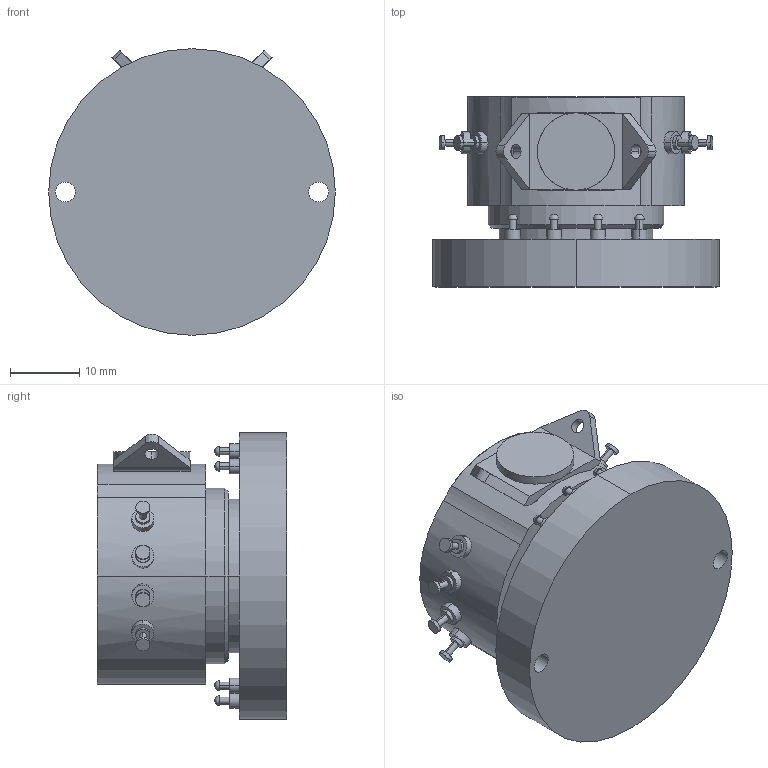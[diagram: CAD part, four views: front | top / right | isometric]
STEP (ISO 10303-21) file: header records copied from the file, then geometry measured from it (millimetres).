
FILE_DESCRIPTION (( 'STEP AP203' ), '1' );
FILE_NAME ('1007832.STEP', '2017-06-05T15:06:09', ( '' ), ( '' ), 'SwSTEP 2.0', 'SolidWorks 2014', '' );
FILE_SCHEMA (( 'CONFIG_CONTROL_DESIGN' ));
Length unit declared in the file: inch
Products named in the file (1): 1007832
Bounding box: 41.26 x 27.34 x 41.26 mm (x, y, z)
Volume: 23866 mm3; surface area: 7181 mm2
Topology: 1 solids, 3 shells, 702 faces, 1787 edges, 1190 vertices
Faces by surface type: plane 385, bspline 171, cylinder 131, sphere 8, cone 7
Entity records: 30432 total; most frequent: CARTESIAN_POINT 14432, ORIENTED_EDGE 3518, DIRECTION 2734, EDGE_CURVE 1759, VERTEX_POINT 1174, LINE 1120, VECTOR 1120, EDGE_LOOP 821
